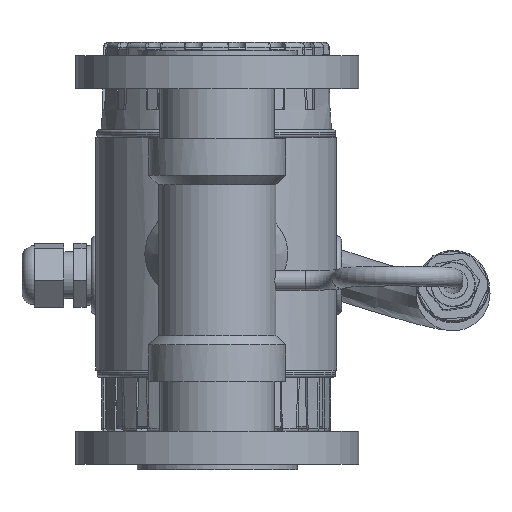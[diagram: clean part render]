
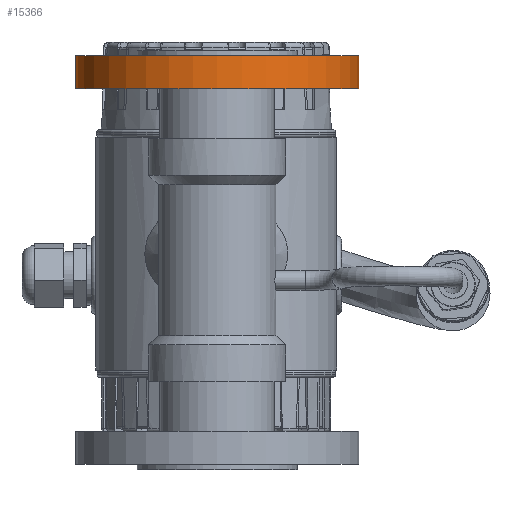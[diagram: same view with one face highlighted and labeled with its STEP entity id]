
A CAD part, front view. The second image highlights one B-rep face of the part: STEP entity #15366.
In plain terms, the highlighted cylindrical face has radius 57.5 mm (diameter 115 mm), a full revolution.
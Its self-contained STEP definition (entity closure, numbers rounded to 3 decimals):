
#2222=LINE('',#30059,#3355);
#3355=VECTOR('',#21535,57.5);
#3672=CYLINDRICAL_SURFACE('',#17107,57.5);
#4517=FACE_OUTER_BOUND('',#5496,.T.);
#5496=EDGE_LOOP('',(#13994,#13995,#13996,#13997));
#6257=CIRCLE('',#17108,57.5);
#6258=CIRCLE('',#17109,57.5);
#7600=VERTEX_POINT('',#30056);
#7601=VERTEX_POINT('',#30058);
#9759=EDGE_CURVE('',#7600,#7600,#6257,.T.);
#9760=EDGE_CURVE('',#7600,#7601,#2222,.T.);
#9761=EDGE_CURVE('',#7601,#7601,#6258,.T.);
#13994=ORIENTED_EDGE('',*,*,#9759,.F.);
#13995=ORIENTED_EDGE('',*,*,#9760,.T.);
#13996=ORIENTED_EDGE('',*,*,#9761,.F.);
#13997=ORIENTED_EDGE('',*,*,#9760,.F.);
#15366=ADVANCED_FACE('',(#4517),#3672,.T.);
#17107=AXIS2_PLACEMENT_3D('',#30055,#21531,#21532);
#17108=AXIS2_PLACEMENT_3D('',#30057,#21533,#21534);
#17109=AXIS2_PLACEMENT_3D('',#30060,#21536,#21537);
#21531=DIRECTION('center_axis',(0.,0.,1.));
#21532=DIRECTION('ref_axis',(-1.,0.,0.));
#21533=DIRECTION('center_axis',(0.,0.,
1.));
#21534=DIRECTION('ref_axis',(-1.,0.,0.));
#21535=DIRECTION('',(0.,0.,-1.));
#21536=DIRECTION('center_axis',(0.,0.,
-1.));
#21537=DIRECTION('ref_axis',(-1.,0.,0.));
#30055=CARTESIAN_POINT('Origin',(-376.699,203.902,289.874));
#30056=CARTESIAN_POINT('',(-319.2,203.901,303.333));
#30057=CARTESIAN_POINT('Origin',(-376.699,203.901,303.333));
#30058=CARTESIAN_POINT('',(-319.2,203.902,289.874));
#30059=CARTESIAN_POINT('',(-319.2,203.902,289.874));
#30060=CARTESIAN_POINT('Origin',(-376.699,203.902,289.874));
